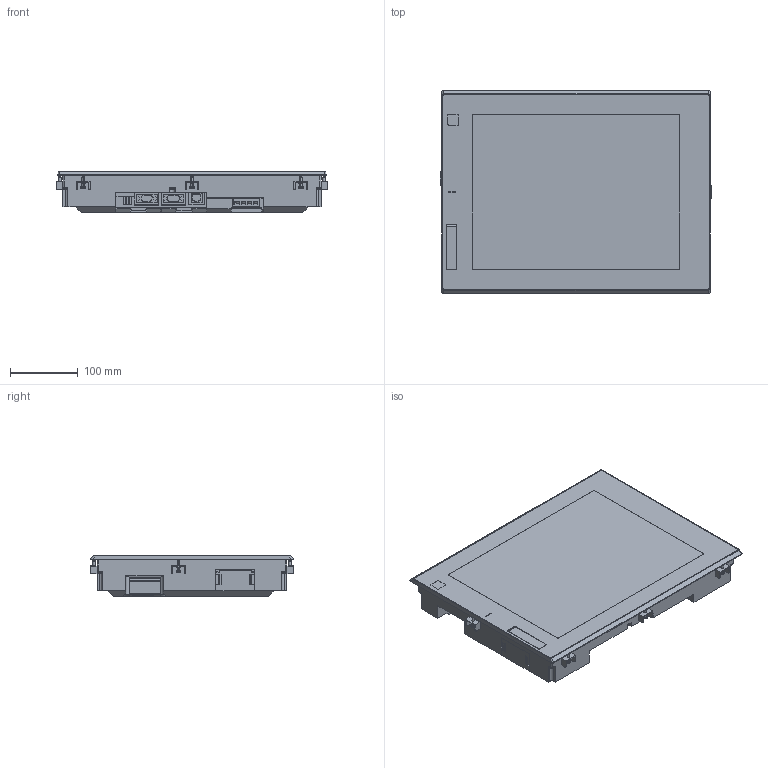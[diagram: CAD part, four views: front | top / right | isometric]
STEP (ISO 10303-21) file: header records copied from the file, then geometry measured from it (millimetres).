
FILE_DESCRIPTION((''),'2;1');
FILE_NAME('GT2715_ASM','2014-04-24T',('QR87550'),(''),'PRO/ENGINEER BY PARAMETRIC TECHNOLOGY CORPORATION, 2011490','PRO/ENGINEER BY PARAMETRIC TECHNOLOGY CORPORATION, 2011490','');
FILE_SCHEMA(('CONFIG_CONTROL_DESIGN'));
Length unit declared in the file: millimetre
Products named in the file (6): GT2715; COVER_1; COVER_2; COVER_3; TORITUKE; GT2715_ASM
Assembly tree (13 placements, depth 2):
  GT2715_ASM
    GT2715
    COVER_1  x2
    COVER_2
    COVER_3
    TORITUKE  x8
Bounding box: 402 x 301 x 60 mm (x, y, z)
Volume: 5529389 mm3; surface area: 378019.6 mm2
Topology: 13 solids, 17 shells, 851 faces, 2161 edges, 1402 vertices
Faces by surface type: plane 520, cylinder 200, cone 48, torus 34, bspline 25, sphere 24
Entity records: 22509 total; most frequent: CARTESIAN_POINT 6875, ORIENTED_EDGE 3238, DIRECTION 3147, EDGE_CURVE 1619, VECTOR 1181, LINE 1181, VERTEX_POINT 1054, AXIS2_PLACEMENT_3D 983
